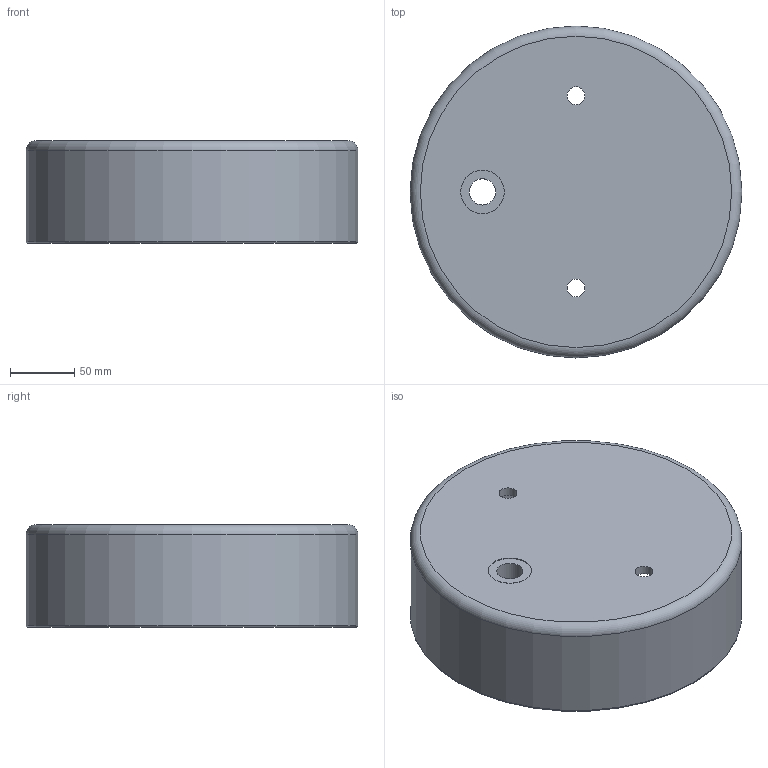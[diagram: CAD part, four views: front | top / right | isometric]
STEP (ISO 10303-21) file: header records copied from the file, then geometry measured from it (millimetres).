
FILE_DESCRIPTION(('Open CASCADE Model'),'2;1');
FILE_NAME('Open CASCADE Shape Model','2026-11-02T16:15:17',('Author'),( 'Open CASCADE'),'Open CASCADE STEP processor 7.9','Open CASCADE 7.9' ,'Unknown');
FILE_SCHEMA(('AUTOMOTIVE_DESIGN { 1 0 10303 214 1 1 1 1 }'));
Length unit declared in the file: millimetre
Products named in the file (1): Open CASCADE STEP translator 7.9 4
Bounding box: 259 x 259 x 80.29 mm (x, y, z)
Volume: 535700.7 mm3; surface area: 224670.8 mm2
Topology: 1 solids, 1 shells, 16 faces, 30 edges, 18 vertices
Faces by surface type: cylinder 7, torus 5, plane 4
Full cylindrical faces by diameter (mm): 14 x2, 20.5 x1, 26.5 x1, 34 x1, 253 x1, 259 x1
Entity records: 832 total; most frequent: CARTESIAN_POINT 168, DIRECTION 134, ORIENTED_EDGE 60, PCURVE 60, DEFINITIONAL_REPRESENTATION 60, LINE 48, VECTOR 48, AXIS2_PLACEMENT_3D 40
